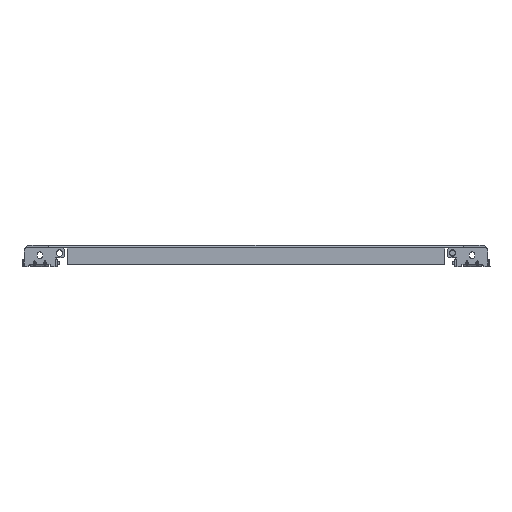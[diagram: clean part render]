
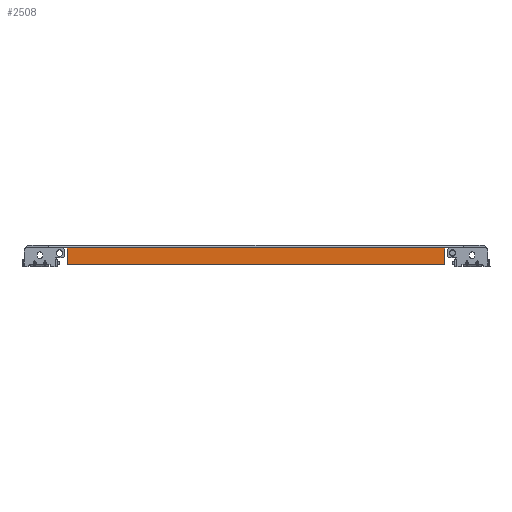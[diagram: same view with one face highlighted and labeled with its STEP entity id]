
A CAD part, front view. The second image highlights one B-rep face of the part: STEP entity #2508.
In plain terms, the highlighted planar face has unit normal (0, -1, 0).
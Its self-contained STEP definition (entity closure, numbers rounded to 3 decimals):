
#5 = LINE ( 'NONE', #5587, #559 ) ;
#216 = DIRECTION ( 'NONE',  ( 0., -1., 0. ) ) ;
#222 = EDGE_CURVE ( 'NONE', #9885, #6829, #852, .T. ) ;
#499 = CARTESIAN_POINT ( 'NONE',  ( 52.6, 0., -1. ) ) ;
#559 = VECTOR ( 'NONE', #11687, 1000. ) ;
#644 = EDGE_LOOP ( 'NONE', ( #7206, #3837, #2210, #1973 ) ) ;
#824 = CARTESIAN_POINT ( 'NONE',  ( 52.6, 0., -22.5 ) ) ;
#852 = LINE ( 'NONE', #6797, #7766 ) ;
#1420 = EDGE_CURVE ( 'NONE', #1955, #6829, #4398, .T. ) ;
#1852 = CARTESIAN_POINT ( 'NONE',  ( 28.5, 0., -1. ) ) ;
#1955 = VERTEX_POINT ( 'NONE', #6644 ) ;
#1973 = ORIENTED_EDGE ( 'NONE', *, *, #9514, .T. ) ;
#2055 = CARTESIAN_POINT ( 'NONE',  ( 532.4, 0., -1. ) ) ;
#2210 = ORIENTED_EDGE ( 'NONE', *, *, #10121, .T. ) ;
#2279 = DIRECTION ( 'NONE',  ( 0., 0., -1. ) ) ;
#2285 = VECTOR ( 'NONE', #2279, 1000. ) ;
#2426 = AXIS2_PLACEMENT_3D ( 'NONE', #4710, #216, #6514 ) ;
#2508 = ADVANCED_FACE ( 'NONE', ( #7191 ), #11034, .T. ) ;
#2568 = VERTEX_POINT ( 'NONE', #2055 ) ;
#3263 = CARTESIAN_POINT ( 'NONE',  ( 532.4, 0., -22.5 ) ) ;
#3837 = ORIENTED_EDGE ( 'NONE', *, *, #222, .F. ) ;
#4398 = LINE ( 'NONE', #499, #2285 ) ;
#4710 = CARTESIAN_POINT ( 'NONE',  ( 28.5, 0., 0. ) ) ;
#5587 = CARTESIAN_POINT ( 'NONE',  ( 532.4, 0., -1. ) ) ;
#5931 = VECTOR ( 'NONE', #8155, 1000. ) ;
#6514 = DIRECTION ( 'NONE',  ( 0., 0., -1. ) ) ;
#6644 = CARTESIAN_POINT ( 'NONE',  ( 52.6, 0., -1. ) ) ;
#6797 = CARTESIAN_POINT ( 'NONE',  ( 28.5, 0., -22.5 ) ) ;
#6829 = VERTEX_POINT ( 'NONE', #824 ) ;
#7191 = FACE_OUTER_BOUND ( 'NONE', #644, .T. ) ;
#7206 = ORIENTED_EDGE ( 'NONE', *, *, #1420, .T. ) ;
#7766 = VECTOR ( 'NONE', #11321, 1000. ) ;
#8155 = DIRECTION ( 'NONE',  ( -1., 0., 0. ) ) ;
#8328 = LINE ( 'NONE', #1852, #5931 ) ;
#9514 = EDGE_CURVE ( 'NONE', #2568, #1955, #8328, .T. ) ;
#9885 = VERTEX_POINT ( 'NONE', #3263 ) ;
#10121 = EDGE_CURVE ( 'NONE', #9885, #2568, #5, .T. ) ;
#11034 = PLANE ( 'NONE',  #2426 ) ;
#11321 = DIRECTION ( 'NONE',  ( -1., 0., 0. ) ) ;
#11687 = DIRECTION ( 'NONE',  ( 0., 0., 1. ) ) ;
